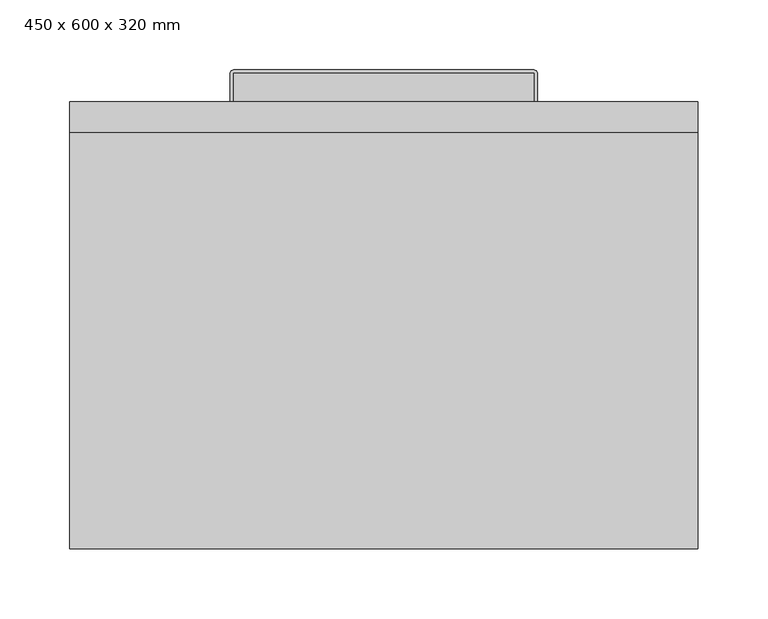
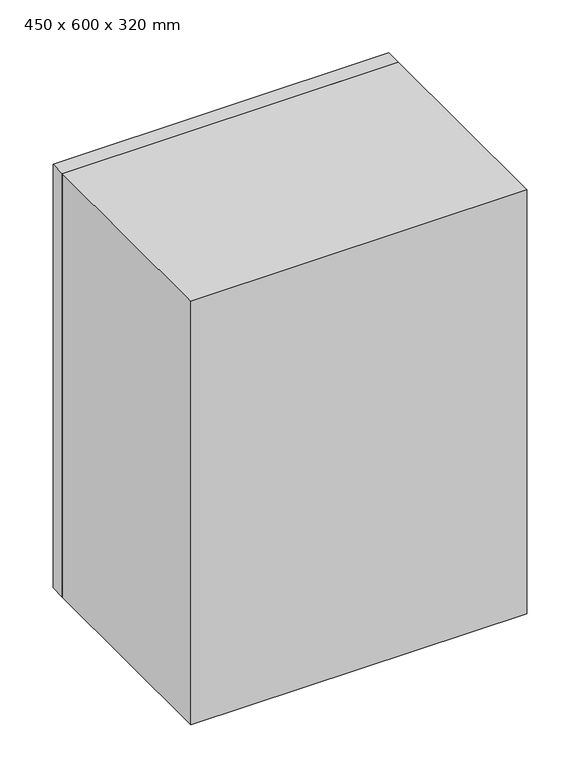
"""IFC4 building model written with IfcOpenShell, lengths in millimetres: furniture geometry, Armario superior - Puerta simple : 450 x 600 x 320 mm."""

from ifc_helpers import new_model, si_unit, point, frame, frame_2d, origin, place, context, project, spatial, polyline, circle_curve, trimmed, segment, composite_curve, outline, extrude, faceted_brep, source, transform, mapped, element, save


def furniture_450_x_600_x_320_mm_b980701e(model_context):
    return source(origin(), model_context, "Body", "SolidModel", [
        extrude(outline(composite_curve([segment(polyline([(67.0, 390.0), (67.0, 410.5)]), True, "CONTINUOUS"), segment(trimmed(circle_curve(frame_2d((67.5, 410.5)), 0.5), [point((67.0, 410.5))], [point((67.5, 411.0))], False, "CARTESIAN"), True, "CONTINUOUS"), segment(polyline([(67.5, 411.0), (282.5, 411.0)]), True, "CONTINUOUS"), segment(trimmed(circle_curve(frame_2d((282.5, 410.5)), 0.5), [point((282.5, 411.0))], [point((283.0, 410.5))], False, "CARTESIAN"), True, "CONTINUOUS"), segment(polyline([(283.0, 410.5), (283.0, 390.0), (67.0, 390.0)]), True, "CONTINUOUS")], self_intersect=False)), frame((0.0, 0.0, 1449.765389), z_axis=(0.0, 0.0, 1.0), x_axis=(1.0, 0.0, 0.0)), (0.0, 0.0, 1.0), 6.4890959),
        extrude(outline(composite_curve([segment(polyline([(65.0, 390.0), (65.0, 410.5)]), True, "CONTINUOUS"), segment(trimmed(circle_curve(frame_2d((67.5, 410.5)), 2.5), [point((65.0, 410.5))], [point((67.5, 413.0))], False, "CARTESIAN"), True, "CONTINUOUS"), segment(polyline([(67.5, 413.0), (282.5, 413.0)]), True, "CONTINUOUS"), segment(trimmed(circle_curve(frame_2d((282.5, 410.5)), 2.5), [point((282.5, 413.0))], [point((285.0, 410.5))], False, "CARTESIAN"), True, "CONTINUOUS"), segment(polyline([(285.0, 410.5), (285.0, 390.0), (283.0, 390.0), (283.0, 410.5)]), True, "CONTINUOUS"), segment(trimmed(circle_curve(frame_2d((282.5, 410.5)), 0.5), [point((283.0, 410.5))], [point((282.5, 411.0))], True, "CARTESIAN"), True, "CONTINUOUS"), segment(polyline([(282.5, 411.0), (67.5, 411.0)]), True, "CONTINUOUS"), segment(trimmed(circle_curve(frame_2d((67.5, 410.5)), 0.5), [point((67.5, 411.0))], [point((67.0, 410.5))], True, "CARTESIAN"), True, "CONTINUOUS"), segment(polyline([(67.0, 410.5), (67.0, 390.0), (65.0, 390.0)]), True, "CONTINUOUS")], self_intersect=False)), frame((0.0, 0.0, 1447.0), z_axis=(0.0, 0.0, 1.0), x_axis=(1.0, 0.0, 0.0)), (0.0, 0.0, 1.0), 12.0),
        faceted_brep([(378.0, 368.0, 1422.0), (-28.0, 368.0, 1422.0), (-28.0, 92.0, 1422.0), (378.0, 92.0, 1422.0), (400.0, 368.0, 1400.0), (400.0, 70.0, 1400.0), (-50.0, 70.0, 1400.0), (-50.0, 368.0, 1400.0), (-50.0, 368.0, 2000.0), (400.0, 368.0, 2000.0), (378.0, 368.0, 1978.0), (-28.0, 368.0, 1978.0), (-50.0, 70.0, 2000.0), (400.0, 70.0, 2000.0), (378.0, 92.0, 1978.0), (-28.0, 92.0, 1978.0)], [[[0, 1, 2, 3]], [[4, 5, 6, 7]], [[8, 9, 4, 7], [0, 10, 11, 1]], [[8, 7, 6, 12]], [[12, 6, 5, 13]], [[13, 5, 4, 9]], [[10, 0, 3, 14]], [[14, 3, 2, 15]], [[1, 11, 15, 2]], [[9, 8, 12, 13]], [[11, 10, 14, 15]]]),
        extrude(outline(polyline([(-50.0, 390.0), (400.0, 390.0), (400.0, 368.0), (-50.0, 368.0), (-50.0, 390.0)])), frame((0.0, 0.0, 1400.0), z_axis=(0.0, 0.0, 1.0), x_axis=(1.0, 0.0, 0.0)), (0.0, 0.0, 1.0), 600.0),
    ])


if __name__ == "__main__":
    model = new_model("IFC4")
    model_context = context("Model", 3, world=origin())
    ifc_project = project(units=[si_unit("LENGTHUNIT", "METRE", prefix="MILLI")], contexts=[model_context])
    site = spatial("IfcSite", under=ifc_project)
    building = spatial("IfcBuilding", under=site)
    placement = place(None, origin())
    furniture_450_x_600_x_320_mm_shape = furniture_450_x_600_x_320_mm_b980701e(model_context)
    element("IfcFurniture", 1, ObjectType="Armario superior - Puerta simple : 450 x 600 x 320 mm", at=placement, inside=building, context=model_context, shape_type="MappedRepresentation", body=[
        mapped(furniture_450_x_600_x_320_mm_shape, transform((0.0, 0.0, 0.0), x_axis=(1.0, 0.0, 0.0), y_axis=(0.0, 1.0, 0.0), z_axis=(0.0, 0.0, 1.0))),
    ])
    save(model, "model.ifc")
